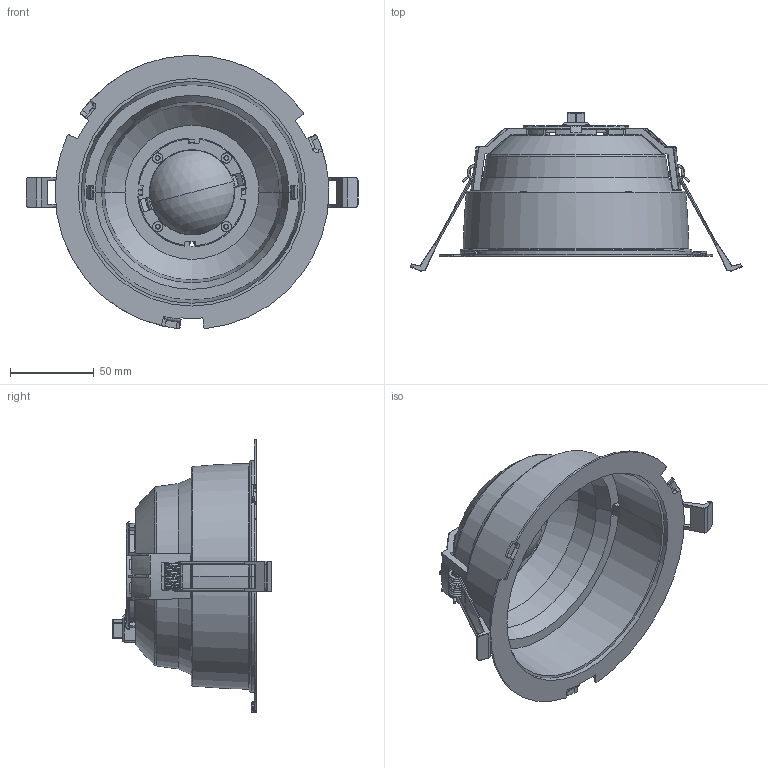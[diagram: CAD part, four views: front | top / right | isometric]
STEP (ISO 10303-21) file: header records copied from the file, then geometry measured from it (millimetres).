
FILE_DESCRIPTION((''),'2;1');
FILE_NAME('DLA_G2_06','2022-10-11T10:08:41',('Bernhard.Fink'),(''),'CREO PARAMETRIC BY PTC INC, 2021184','CREO PARAMETRIC BY PTC INC, 2021184','');
FILE_SCHEMA(('CONFIG_CONTROL_DESIGN'));
Products named in the file (1): DLA_G2_06
Bounding box: 198.47 x 94.89 x 163.29 mm (x, y, z)
Volume: 79416 mm3; surface area: 120114.9 mm2
Topology: 2 solids, 2 shells, 1221 faces, 3348 edges, 2120 vertices
Faces by surface type: plane 450, cylinder 330, bspline 149, torus 138, cone 132, sphere 22
Entity records: 190531 total; most frequent: CARTESIAN_POINT 161191, ORIENTED_EDGE 6658, DIRECTION 5504, EDGE_CURVE 3329, VERTEX_POINT 2120, AXIS2_PLACEMENT_3D 2110, EDGE_LOOP 1291, VECTOR 1284
